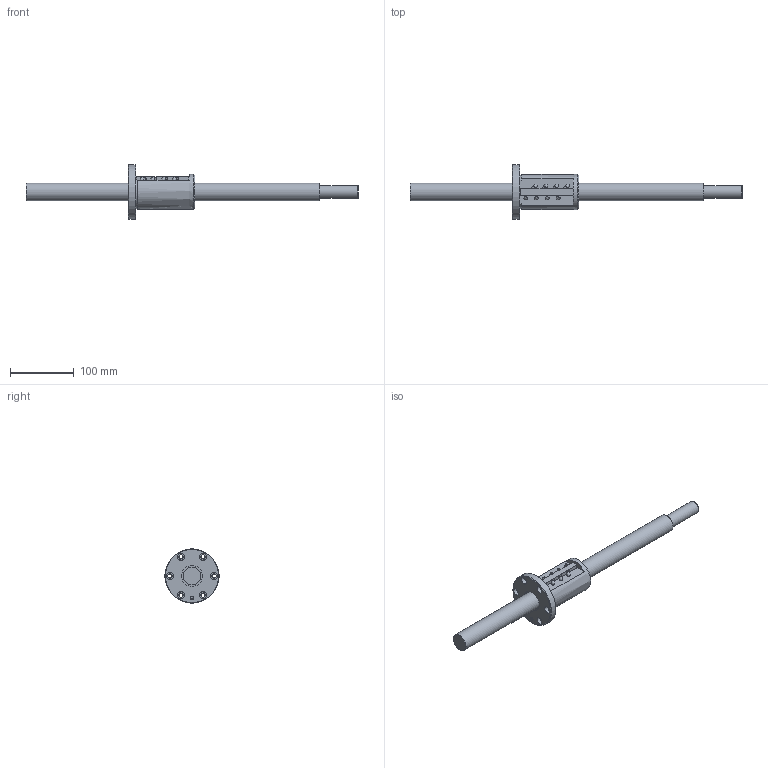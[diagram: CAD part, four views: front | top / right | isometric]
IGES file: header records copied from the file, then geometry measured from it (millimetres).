
Start section: Data from Parasolid IGES Translator 26.0.171, Copyright(c) 2006 Siemens PLM Software. All Rights Reserved.
Global section: file name: BIF2806-10RRG0+520LC5A(00).igs; native system: By Siemens PLM Incorporated; preprocessor: XPlus GENERIC/IGES 26.0.171; author: Noname; organization: Noname; date: 20240715.072840; units: millimetre
Bounding box: 520 x 85 x 85 mm (x, y, z)
Surface area: 87295.2 mm2 (no closed solid volume)
Topology: 0 solids, 0 shells, 111 faces, 485 edges, 452 vertices
Faces by surface type: revolution 79, extrusion 32
